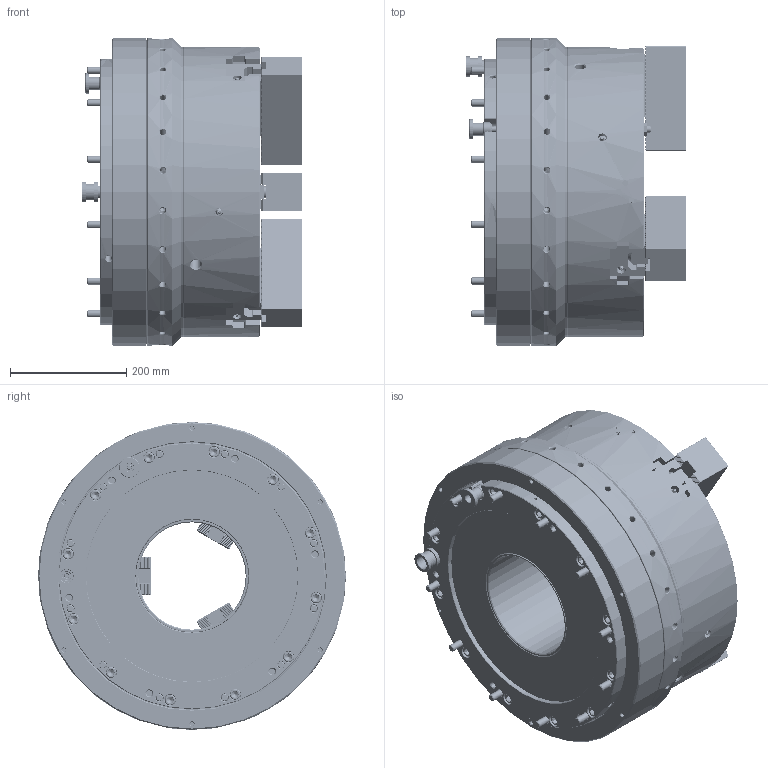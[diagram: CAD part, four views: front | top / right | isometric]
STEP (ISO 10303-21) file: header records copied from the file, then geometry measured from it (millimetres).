
FILE_DESCRIPTION (( 'STEP AP214' ), '1' );
FILE_NAME ('UPR530A185_HOL.STEP', '2025-10-24T02:41:03', ( '' ), ( '' ), 'SwSTEP 2.0', 'SolidWorks 2022', '' );
FILE_SCHEMA (( 'AUTOMOTIVE_DESIGN' ));
Length unit declared in the file: millimetre
Products named in the file (5): Copy of 0030120050^UPR530A185_VIEW; Copy of 61P372874^UPR530A185_VIEW; Copy of 61P493019^UPR530A185_VIEW; Part2^UPR530A185_VIEW; UPR530A185_HOL
Assembly tree (16 placements, depth 2):
  UPR530A185_HOL
    Copy of 61P372874^UPR530A185_VIEW  x3
    Copy of 61P493019^UPR530A185_VIEW  x6
    Copy of 0030120050^UPR530A185_VIEW  x6
    Part2^UPR530A185_VIEW
Bounding box: 378.62 x 530 x 530 mm (x, y, z)
Volume: 49141449.4 mm3; surface area: 2313970.4 mm2
Topology: 17 solids, 33 shells, 9090 faces, 24810 edges, 16140 vertices
Faces by surface type: plane 4762, cylinder 2269, bspline 960, cone 955, torus 132, sphere 12
Entity records: 266726 total; most frequent: CARTESIAN_POINT 95675, ORIENTED_EDGE 38552, DIRECTION 29812, EDGE_CURVE 19276, VERTEX_POINT 12585, LINE 12282, VECTOR 12282, AXIS2_PLACEMENT_3D 8765
